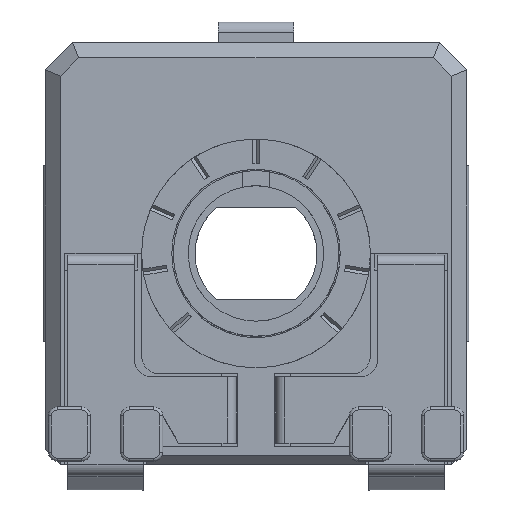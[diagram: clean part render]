
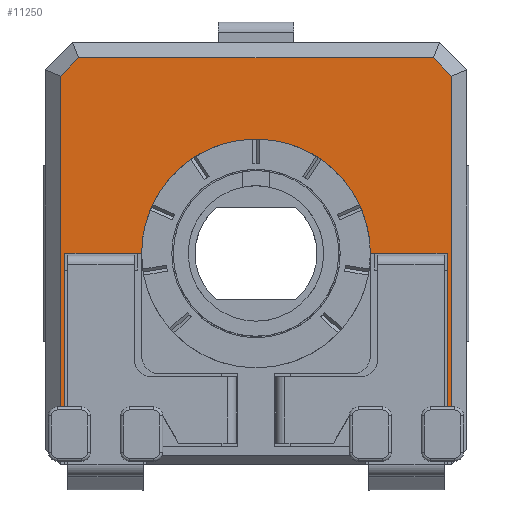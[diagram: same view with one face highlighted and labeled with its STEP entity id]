
A CAD part, top view. The second image highlights one B-rep face of the part: STEP entity #11250.
In plain terms, the highlighted planar face has unit normal (0, 0, 1).
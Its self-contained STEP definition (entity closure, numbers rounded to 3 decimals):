
#476=CIRCLE('',#12062,3.8);
#976=FACE_OUTER_BOUND('',#1553,.T.);
#1553=EDGE_LOOP('',(#9492,#9493,#9494,#9495,#9496,#9497,#9498,#9499,#9500,
#9501,#9502,#9503));
#1998=LINE('',#16102,#3273);
#2066=LINE('',#16355,#3341);
#2306=LINE('',#17094,#3581);
#2309=LINE('',#17099,#3584);
#2534=LINE('',#17659,#3809);
#2567=LINE('',#17786,#3842);
#2790=LINE('',#18333,#4065);
#2791=LINE('',#18336,#4066);
#2792=LINE('',#18337,#4067);
#2793=LINE('',#18340,#4068);
#2794=LINE('',#18341,#4069);
#3273=VECTOR('',#12962,10.);
#3341=VECTOR('',#13244,10.);
#3581=VECTOR('',#13766,10.);
#3584=VECTOR('',#13771,10.);
#3809=VECTOR('',#14144,10.);
#3842=VECTOR('',#14219,10.);
#4065=VECTOR('',#14736,10.);
#4066=VECTOR('',#14739,10.);
#4067=VECTOR('',#14740,10.);
#4068=VECTOR('',#14743,10.);
#4069=VECTOR('',#14744,10.);
#4480=VERTEX_POINT('',#15910);
#4535=VERTEX_POINT('',#16101);
#4612=VERTEX_POINT('',#16352);
#4613=VERTEX_POINT('',#16354);
#4660=VERTEX_POINT('',#16508);
#4661=VERTEX_POINT('',#16510);
#4814=VERTEX_POINT('',#17090);
#4815=VERTEX_POINT('',#17092);
#4980=VERTEX_POINT('',#17655);
#5006=VERTEX_POINT('',#17785);
#5137=VERTEX_POINT('',#18335);
#5138=VERTEX_POINT('',#18339);
#5677=EDGE_CURVE('',#4535,#4480,#1998,.T.);
#5803=EDGE_CURVE('',#4613,#4612,#2066,.T.);
#6107=EDGE_CURVE('',#4815,#4814,#2306,.T.);
#6110=EDGE_CURVE('',#4814,#4612,#2309,.T.);
#6356=EDGE_CURVE('',#4535,#4980,#2534,.T.);
#6401=EDGE_CURVE('',#4980,#5006,#2567,.T.);
#6651=EDGE_CURVE('',#5006,#4815,#2790,.T.);
#6652=EDGE_CURVE('',#4480,#5137,#2791,.T.);
#6653=EDGE_CURVE('',#5137,#4661,#2792,.T.);
#6654=EDGE_CURVE('',#4661,#4660,#476,.T.);
#6655=EDGE_CURVE('',#4660,#5138,#2793,.T.);
#6656=EDGE_CURVE('',#5138,#4613,#2794,.T.);
#9492=ORIENTED_EDGE('',*,*,#5677,.T.);
#9493=ORIENTED_EDGE('',*,*,#6652,.T.);
#9494=ORIENTED_EDGE('',*,*,#6653,.T.);
#9495=ORIENTED_EDGE('',*,*,#6654,.T.);
#9496=ORIENTED_EDGE('',*,*,#6655,.T.);
#9497=ORIENTED_EDGE('',*,*,#6656,.T.);
#9498=ORIENTED_EDGE('',*,*,#5803,.T.);
#9499=ORIENTED_EDGE('',*,*,#6110,.F.);
#9500=ORIENTED_EDGE('',*,*,#6107,.F.);
#9501=ORIENTED_EDGE('',*,*,#6651,.F.);
#9502=ORIENTED_EDGE('',*,*,#6401,.F.);
#9503=ORIENTED_EDGE('',*,*,#6356,.F.);
#10467=PLANE('',#12061);
#11250=ADVANCED_FACE('',(#976),#10467,.T.);
#12061=AXIS2_PLACEMENT_3D('',#18334,#14737,#14738);
#12062=AXIS2_PLACEMENT_3D('',#18338,#14741,#14742);
#12962=DIRECTION('',(1.,0.,0.));
#13244=DIRECTION('',(1.,0.,0.));
#13766=DIRECTION('',(0.707,-0.707,0.));
#13771=DIRECTION('',(0.,-1.,0.));
#14144=DIRECTION('',(0.,1.,0.));
#14219=DIRECTION('',(0.707,0.707,0.));
#14736=DIRECTION('',(1.,0.,0.));
#14737=DIRECTION('center_axis',(0.,0.,1.));
#14738=DIRECTION('ref_axis',(1.,0.,0.));
#14739=DIRECTION('',(0.,1.,0.));
#14740=DIRECTION('',(1.,0.,0.));
#14741=DIRECTION('center_axis',(0.,0.,-1.));
#14742=DIRECTION('ref_axis',(-1.,0.,0.));
#14743=DIRECTION('',(1.,0.,0.));
#14744=DIRECTION('',(0.,-1.,0.));
#15910=CARTESIAN_POINT('',(-13.817,-7.998,4.4));
#16101=CARTESIAN_POINT('',(-13.967,-7.998,4.4));
#16102=CARTESIAN_POINT('',(-10.217,-7.998,4.4));
#16352=CARTESIAN_POINT('',(-0.967,-7.998,4.4));
#16354=CARTESIAN_POINT('',(-1.117,-7.998,4.4));
#16355=CARTESIAN_POINT('',(-4.017,-7.998,4.4));
#16508=CARTESIAN_POINT('',(-3.667,-2.898,4.4));
#16510=CARTESIAN_POINT('',(-11.267,-2.898,4.4));
#17090=CARTESIAN_POINT('',(-0.967,2.994,4.4));
#17092=CARTESIAN_POINT('',(-1.574,3.602,4.4));
#17094=CARTESIAN_POINT('',(-1.271,3.298,4.4));
#17099=CARTESIAN_POINT('',(-0.967,0.602,4.4));
#17655=CARTESIAN_POINT('',(-13.967,2.994,4.4));
#17659=CARTESIAN_POINT('',(-13.967,-6.398,4.4));
#17785=CARTESIAN_POINT('',(-13.36,3.602,4.4));
#17786=CARTESIAN_POINT('',(-13.663,3.298,4.4));
#18333=CARTESIAN_POINT('',(-10.967,3.602,4.4));
#18334=CARTESIAN_POINT('Origin',(-7.467,-2.898,4.4));
#18335=CARTESIAN_POINT('',(-13.817,-2.898,4.4));
#18336=CARTESIAN_POINT('',(-13.817,-3.173,4.4));
#18337=CARTESIAN_POINT('',(-9.442,-2.898,4.4));
#18338=CARTESIAN_POINT('Origin',(-7.467,-2.898,4.4));
#18339=CARTESIAN_POINT('',(-1.117,-2.898,4.4));
#18340=CARTESIAN_POINT('',(-5.492,-2.898,4.4));
#18341=CARTESIAN_POINT('',(-1.117,-2.898,4.4));
